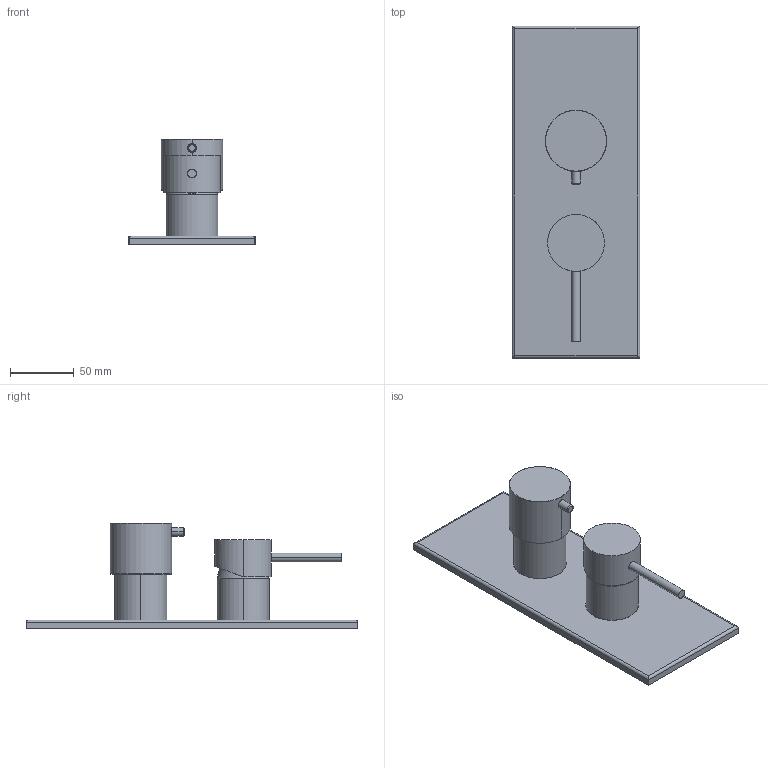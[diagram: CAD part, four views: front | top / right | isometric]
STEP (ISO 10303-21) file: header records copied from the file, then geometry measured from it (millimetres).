
FILE_DESCRIPTION((''),'2;1');
FILE_NAME('F3079X6INOX_FILE_3D','2018-05-15T',('ivanv'),(''),'CREO PARAMETRIC BY PTC INC, 2016260','CREO PARAMETRIC BY PTC INC, 2016260','');
FILE_SCHEMA(('CONFIG_CONTROL_DESIGN'));
Length unit declared in the file: millimetre
Products named in the file (1): F3079X6INOX_FILE_3D
Bounding box: 100 x 260 x 83 mm (x, y, z)
Volume: 104319 mm3; surface area: 110323 mm2
Topology: 5 solids, 5 shells, 244 faces, 550 edges, 316 vertices
Faces by surface type: cylinder 95, cone 70, plane 43, torus 34, bspline 2
Entity records: 7926 total; most frequent: CARTESIAN_POINT 2427, DIRECTION 1242, ORIENTED_EDGE 1068, EDGE_CURVE 534, AXIS2_PLACEMENT_3D 521, VERTEX_POINT 316, CIRCLE 279, EDGE_LOOP 272
